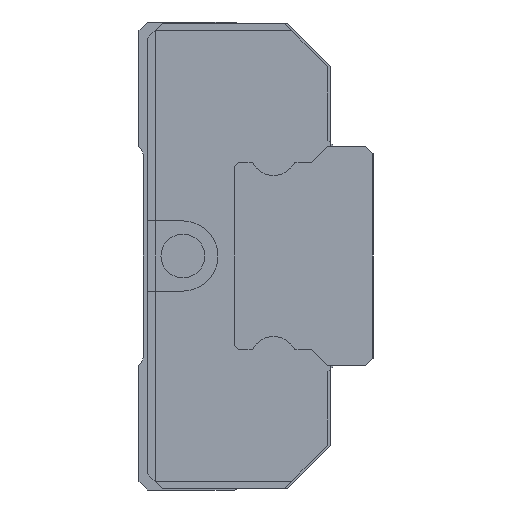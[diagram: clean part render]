
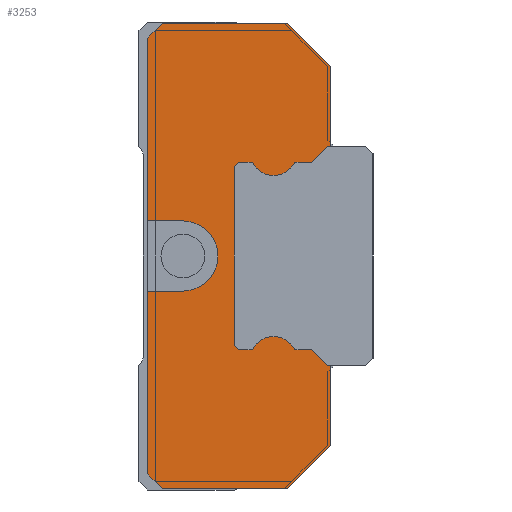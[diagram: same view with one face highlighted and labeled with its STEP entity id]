
A CAD part, left-side view. The second image highlights one B-rep face of the part: STEP entity #3253.
In plain terms, the highlighted planar face has unit normal (-1, 0, 0).
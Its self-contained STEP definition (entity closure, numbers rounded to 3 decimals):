
#218=CIRCLE('',#3590,2.4);
#219=CIRCLE('',#3591,0.15);
#220=CIRCLE('',#3592,1.6);
#221=CIRCLE('',#3593,0.15);
#222=CIRCLE('',#3594,0.15);
#223=CIRCLE('',#3595,1.6);
#224=CIRCLE('',#3596,0.15);
#576=ORIENTED_EDGE('',*,*,#1252,.T.);
#577=ORIENTED_EDGE('',*,*,#1253,.T.);
#578=ORIENTED_EDGE('',*,*,#1254,.T.);
#579=ORIENTED_EDGE('',*,*,#1250,.F.);
#580=ORIENTED_EDGE('',*,*,#1255,.F.);
#581=ORIENTED_EDGE('',*,*,#1256,.F.);
#582=ORIENTED_EDGE('',*,*,#1257,.F.);
#583=ORIENTED_EDGE('',*,*,#1258,.F.);
#584=ORIENTED_EDGE('',*,*,#1259,.T.);
#585=ORIENTED_EDGE('',*,*,#1260,.T.);
#586=ORIENTED_EDGE('',*,*,#1261,.T.);
#587=ORIENTED_EDGE('',*,*,#1262,.T.);
#588=ORIENTED_EDGE('',*,*,#1263,.F.);
#589=ORIENTED_EDGE('',*,*,#1264,.T.);
#590=ORIENTED_EDGE('',*,*,#1265,.T.);
#591=ORIENTED_EDGE('',*,*,#1266,.T.);
#592=ORIENTED_EDGE('',*,*,#1267,.T.);
#593=ORIENTED_EDGE('',*,*,#1268,.T.);
#594=ORIENTED_EDGE('',*,*,#1269,.T.);
#595=ORIENTED_EDGE('',*,*,#1270,.T.);
#596=ORIENTED_EDGE('',*,*,#1271,.F.);
#597=ORIENTED_EDGE('',*,*,#1272,.T.);
#598=ORIENTED_EDGE('',*,*,#1273,.T.);
#599=ORIENTED_EDGE('',*,*,#1274,.T.);
#600=ORIENTED_EDGE('',*,*,#1275,.T.);
#601=ORIENTED_EDGE('',*,*,#1276,.F.);
#602=ORIENTED_EDGE('',*,*,#1277,.F.);
#603=ORIENTED_EDGE('',*,*,#1278,.F.);
#604=ORIENTED_EDGE('',*,*,#1279,.F.);
#605=ORIENTED_EDGE('',*,*,#1246,.F.);
#1246=EDGE_CURVE('',#1644,#1645,#1864,.T.);
#1250=EDGE_CURVE('',#1648,#1649,#1868,.T.);
#1252=EDGE_CURVE('',#1644,#1650,#1870,.T.);
#1253=EDGE_CURVE('',#1650,#1651,#218,.T.);
#1254=EDGE_CURVE('',#1651,#1649,#1871,.T.);
#1255=EDGE_CURVE('',#1652,#1648,#1872,.T.);
#1256=EDGE_CURVE('',#1653,#1652,#1873,.T.);
#1257=EDGE_CURVE('',#1654,#1653,#1874,.T.);
#1258=EDGE_CURVE('',#1655,#1654,#1875,.T.);
#1259=EDGE_CURVE('',#1655,#1656,#1876,.T.);
#1260=EDGE_CURVE('',#1656,#1657,#1877,.T.);
#1261=EDGE_CURVE('',#1657,#1658,#1878,.T.);
#1262=EDGE_CURVE('',#1658,#1659,#219,.T.);
#1263=EDGE_CURVE('',#1660,#1659,#220,.T.);
#1264=EDGE_CURVE('',#1660,#1661,#221,.T.);
#1265=EDGE_CURVE('',#1661,#1662,#1879,.T.);
#1266=EDGE_CURVE('',#1662,#1663,#1880,.T.);
#1267=EDGE_CURVE('',#1663,#1664,#1881,.T.);
#1268=EDGE_CURVE('',#1664,#1665,#1882,.T.);
#1269=EDGE_CURVE('',#1665,#1666,#1883,.T.);
#1270=EDGE_CURVE('',#1666,#1667,#222,.T.);
#1271=EDGE_CURVE('',#1668,#1667,#223,.T.);
#1272=EDGE_CURVE('',#1668,#1669,#224,.T.);
#1273=EDGE_CURVE('',#1669,#1670,#1884,.T.);
#1274=EDGE_CURVE('',#1670,#1671,#1885,.T.);
#1275=EDGE_CURVE('',#1671,#1672,#1886,.T.);
#1276=EDGE_CURVE('',#1673,#1672,#1887,.T.);
#1277=EDGE_CURVE('',#1674,#1673,#1888,.T.);
#1278=EDGE_CURVE('',#1675,#1674,#1889,.T.);
#1279=EDGE_CURVE('',#1645,#1675,#1890,.T.);
#1644=VERTEX_POINT('',#5083);
#1645=VERTEX_POINT('',#5085);
#1648=VERTEX_POINT('',#5091);
#1649=VERTEX_POINT('',#5093);
#1650=VERTEX_POINT('',#5097);
#1651=VERTEX_POINT('',#5099);
#1652=VERTEX_POINT('',#5102);
#1653=VERTEX_POINT('',#5104);
#1654=VERTEX_POINT('',#5106);
#1655=VERTEX_POINT('',#5108);
#1656=VERTEX_POINT('',#5110);
#1657=VERTEX_POINT('',#5112);
#1658=VERTEX_POINT('',#5114);
#1659=VERTEX_POINT('',#5116);
#1660=VERTEX_POINT('',#5118);
#1661=VERTEX_POINT('',#5120);
#1662=VERTEX_POINT('',#5122);
#1663=VERTEX_POINT('',#5124);
#1664=VERTEX_POINT('',#5126);
#1665=VERTEX_POINT('',#5128);
#1666=VERTEX_POINT('',#5130);
#1667=VERTEX_POINT('',#5132);
#1668=VERTEX_POINT('',#5134);
#1669=VERTEX_POINT('',#5136);
#1670=VERTEX_POINT('',#5138);
#1671=VERTEX_POINT('',#5140);
#1672=VERTEX_POINT('',#5142);
#1673=VERTEX_POINT('',#5144);
#1674=VERTEX_POINT('',#5146);
#1675=VERTEX_POINT('',#5148);
#1864=LINE('',#5084,#2140);
#1868=LINE('',#5092,#2144);
#1870=LINE('',#5096,#2146);
#1871=LINE('',#5100,#2147);
#1872=LINE('',#5101,#2148);
#1873=LINE('',#5103,#2149);
#1874=LINE('',#5105,#2150);
#1875=LINE('',#5107,#2151);
#1876=LINE('',#5109,#2152);
#1877=LINE('',#5111,#2153);
#1878=LINE('',#5113,#2154);
#1879=LINE('',#5121,#2155);
#1880=LINE('',#5123,#2156);
#1881=LINE('',#5125,#2157);
#1882=LINE('',#5127,#2158);
#1883=LINE('',#5129,#2159);
#1884=LINE('',#5137,#2160);
#1885=LINE('',#5139,#2161);
#1886=LINE('',#5141,#2162);
#1887=LINE('',#5143,#2163);
#1888=LINE('',#5145,#2164);
#1889=LINE('',#5147,#2165);
#1890=LINE('',#5149,#2166);
#2140=VECTOR('',#4193,1000.);
#2144=VECTOR('',#4197,1000.);
#2146=VECTOR('',#4201,1000.);
#2147=VECTOR('',#4204,1000.);
#2148=VECTOR('',#4205,1000.);
#2149=VECTOR('',#4206,1000.);
#2150=VECTOR('',#4207,1000.);
#2151=VECTOR('',#4208,1000.);
#2152=VECTOR('',#4209,1000.);
#2153=VECTOR('',#4210,1000.);
#2154=VECTOR('',#4211,1000.);
#2155=VECTOR('',#4218,1000.);
#2156=VECTOR('',#4219,1000.);
#2157=VECTOR('',#4220,1000.);
#2158=VECTOR('',#4221,1000.);
#2159=VECTOR('',#4222,1000.);
#2160=VECTOR('',#4229,1000.);
#2161=VECTOR('',#4230,1000.);
#2162=VECTOR('',#4231,1000.);
#2163=VECTOR('',#4232,1000.);
#2164=VECTOR('',#4233,1000.);
#2165=VECTOR('',#4234,1000.);
#2166=VECTOR('',#4235,1000.);
#2589=EDGE_LOOP('',(#576,#577,#578,#579,#580,#581,#582,#583,#584,#585,#586,
#587,#588,#589,#590,#591,#592,#593,#594,#595,#596,#597,#598,#599,#600,#601,
#602,#603,#604,#605));
#2921=FACE_BOUND('',#2589,.T.);
#3074=PLANE('',#3589);
#3253=ADVANCED_FACE('',(#2921),#3074,.F.);
#3589=AXIS2_PLACEMENT_3D('',#5095,#4199,#4200);
#3590=AXIS2_PLACEMENT_3D('',#5098,#4202,#4203);
#3591=AXIS2_PLACEMENT_3D('',#5115,#4212,#4213);
#3592=AXIS2_PLACEMENT_3D('',#5117,#4214,#4215);
#3593=AXIS2_PLACEMENT_3D('',#5119,#4216,#4217);
#3594=AXIS2_PLACEMENT_3D('',#5131,#4223,#4224);
#3595=AXIS2_PLACEMENT_3D('',#5133,#4225,#4226);
#3596=AXIS2_PLACEMENT_3D('',#5135,#4227,#4228);
#4193=DIRECTION('',(0.,0.,1.));
#4197=DIRECTION('',(0.,0.,1.));
#4199=DIRECTION('',(1.,0.,0.));
#4200=DIRECTION('',(0.,0.,-1.));
#4201=DIRECTION('',(0.,-1.,0.));
#4202=DIRECTION('',(1.,0.,0.));
#4203=DIRECTION('',(0.,0.,-1.));
#4204=DIRECTION('',(0.,1.,0.));
#4205=DIRECTION('',(0.,0.707,0.707));
#4206=DIRECTION('',(0.,1.,0.));
#4207=DIRECTION('',(0.,0.707,-0.707));
#4208=DIRECTION('',(0.,0.,-1.));
#4209=DIRECTION('',(0.,1.,0.));
#4210=DIRECTION('',(0.,0.707,0.707));
#4211=DIRECTION('',(0.,1.,0.));
#4212=DIRECTION('',(1.,0.,0.));
#4213=DIRECTION('',(0.,0.,-1.));
#4214=DIRECTION('',(1.,0.,0.));
#4215=DIRECTION('',(0.,0.,-1.));
#4216=DIRECTION('',(1.,0.,0.));
#4217=DIRECTION('',(0.,0.,-1.));
#4218=DIRECTION('',(0.,1.,0.));
#4219=DIRECTION('',(0.,0.707,0.707));
#4220=DIRECTION('',(0.,0.,1.));
#4221=DIRECTION('',(0.,-0.707,0.707));
#4222=DIRECTION('',(0.,-1.,0.));
#4223=DIRECTION('',(1.,0.,0.));
#4224=DIRECTION('',(0.,0.,-1.));
#4225=DIRECTION('',(1.,0.,0.));
#4226=DIRECTION('',(0.,0.,-1.));
#4227=DIRECTION('',(1.,0.,0.));
#4228=DIRECTION('',(0.,0.,-1.));
#4229=DIRECTION('',(0.,-1.,0.));
#4230=DIRECTION('',(0.,-0.707,0.707));
#4231=DIRECTION('',(0.,-1.,0.));
#4232=DIRECTION('',(0.,0.,-1.));
#4233=DIRECTION('',(0.,-0.707,-0.707));
#4234=DIRECTION('',(0.,-1.,0.));
#4235=DIRECTION('',(0.,-0.707,0.707));
#5083=CARTESIAN_POINT('',(-16.,12.7,2.4));
#5084=CARTESIAN_POINT('',(-16.,12.7,-14.9));
#5085=CARTESIAN_POINT('',(-16.,12.7,14.9));
#5091=CARTESIAN_POINT('',(-16.,12.7,-14.9));
#5092=CARTESIAN_POINT('',(-16.,12.7,-14.9));
#5093=CARTESIAN_POINT('',(-16.,12.7,-2.4));
#5095=CARTESIAN_POINT('',(-16.,0.,0.));
#5096=CARTESIAN_POINT('',(-16.,13.3,2.4));
#5097=CARTESIAN_POINT('',(-16.,10.3,2.4));
#5098=CARTESIAN_POINT('',(-16.,10.3,0.));
#5099=CARTESIAN_POINT('',(-16.,10.3,-2.4));
#5100=CARTESIAN_POINT('',(-16.,10.3,-2.4));
#5101=CARTESIAN_POINT('',(-16.,11.7,-15.9));
#5102=CARTESIAN_POINT('',(-16.,11.7,-15.9));
#5103=CARTESIAN_POINT('',(-16.,3.16,-15.9));
#5104=CARTESIAN_POINT('',(-16.,3.16,-15.9));
#5105=CARTESIAN_POINT('',(-16.,0.2,-12.94));
#5106=CARTESIAN_POINT('',(-16.,0.2,-12.94));
#5107=CARTESIAN_POINT('',(-16.,0.2,12.94));
#5108=CARTESIAN_POINT('',(-16.,0.2,-7.5));
#5109=CARTESIAN_POINT('',(-16.,-2.2,-7.5));
#5110=CARTESIAN_POINT('',(-16.,0.4,-7.5));
#5111=CARTESIAN_POINT('',(-16.,0.4,-7.5));
#5112=CARTESIAN_POINT('',(-16.,1.5,-6.4));
#5113=CARTESIAN_POINT('',(-16.,1.5,-6.4));
#5114=CARTESIAN_POINT('',(-16.,2.57,-6.4));
#5115=CARTESIAN_POINT('',(-16.,2.57,-6.25));
#5116=CARTESIAN_POINT('',(-16.,2.701,-6.323));
#5117=CARTESIAN_POINT('',(-16.,4.1,-7.1));
#5118=CARTESIAN_POINT('',(-16.,5.499,-6.323));
#5119=CARTESIAN_POINT('',(-16.,5.63,-6.25));
#5120=CARTESIAN_POINT('',(-16.,5.63,-6.4));
#5121=CARTESIAN_POINT('',(-16.,5.63,-6.4));
#5122=CARTESIAN_POINT('',(-16.,6.5,-6.4));
#5123=CARTESIAN_POINT('',(-16.,6.5,-6.4));
#5124=CARTESIAN_POINT('',(-16.,6.8,-6.1));
#5125=CARTESIAN_POINT('',(-16.,6.8,-6.1));
#5126=CARTESIAN_POINT('',(-16.,6.8,6.1));
#5127=CARTESIAN_POINT('',(-16.,6.8,6.1));
#5128=CARTESIAN_POINT('',(-16.,6.5,6.4));
#5129=CARTESIAN_POINT('',(-16.,6.5,6.4));
#5130=CARTESIAN_POINT('',(-16.,5.63,6.4));
#5131=CARTESIAN_POINT('',(-16.,5.63,6.25));
#5132=CARTESIAN_POINT('',(-16.,5.499,6.323));
#5133=CARTESIAN_POINT('',(-16.,4.1,7.1));
#5134=CARTESIAN_POINT('',(-16.,2.701,6.323));
#5135=CARTESIAN_POINT('',(-16.,2.57,6.25));
#5136=CARTESIAN_POINT('',(-16.,2.57,6.4));
#5137=CARTESIAN_POINT('',(-16.,2.57,6.4));
#5138=CARTESIAN_POINT('',(-16.,1.5,6.4));
#5139=CARTESIAN_POINT('',(-16.,1.5,6.4));
#5140=CARTESIAN_POINT('',(-16.,0.4,7.5));
#5141=CARTESIAN_POINT('',(-16.,0.4,7.5));
#5142=CARTESIAN_POINT('',(-16.,0.2,7.5));
#5143=CARTESIAN_POINT('',(-16.,0.2,12.94));
#5144=CARTESIAN_POINT('',(-16.,0.2,12.94));
#5145=CARTESIAN_POINT('',(-16.,3.16,15.9));
#5146=CARTESIAN_POINT('',(-16.,3.16,15.9));
#5147=CARTESIAN_POINT('',(-16.,11.7,15.9));
#5148=CARTESIAN_POINT('',(-16.,11.7,15.9));
#5149=CARTESIAN_POINT('',(-16.,12.7,14.9));
